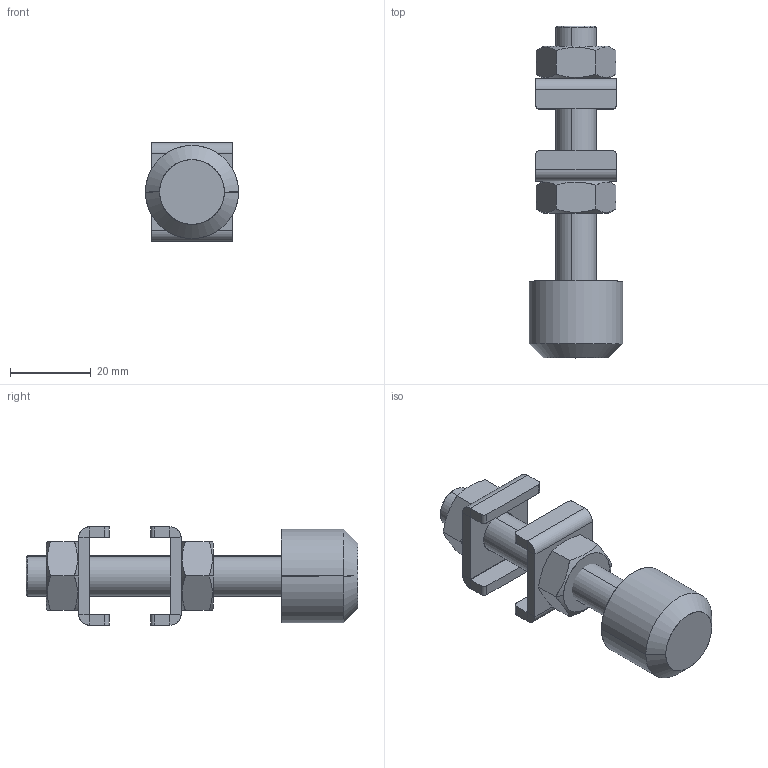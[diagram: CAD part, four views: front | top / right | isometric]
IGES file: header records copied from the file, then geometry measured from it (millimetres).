
Start section: SolidWorks IGES file using analytic representation for surfaces
Global section: file name: C:\Projetos\Ponteiras\BRP\BRP-M10.IGS; native system: SolidWorks 2015; preprocessor: SolidWorks 2015; author: Ricardo; date: 160725.150246; units: millimetre
Bounding box: 23 x 82 x 24.3 mm (x, y, z)
Surface area: 9769 mm2 (no closed solid volume)
Topology: 0 solids, 0 shells, 110 faces, 1488 edges, 1486 vertices
Faces by surface type: bspline 56, revolution 54
